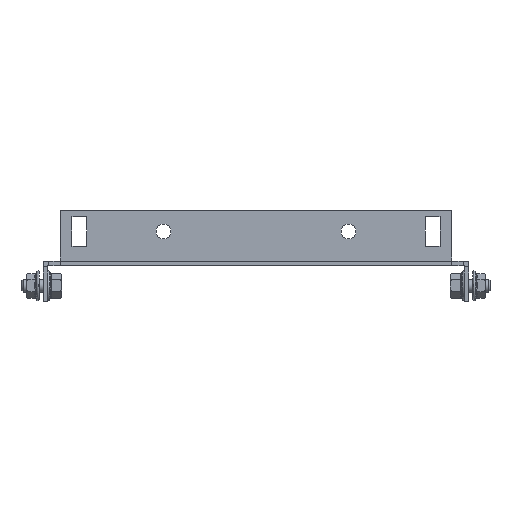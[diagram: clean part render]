
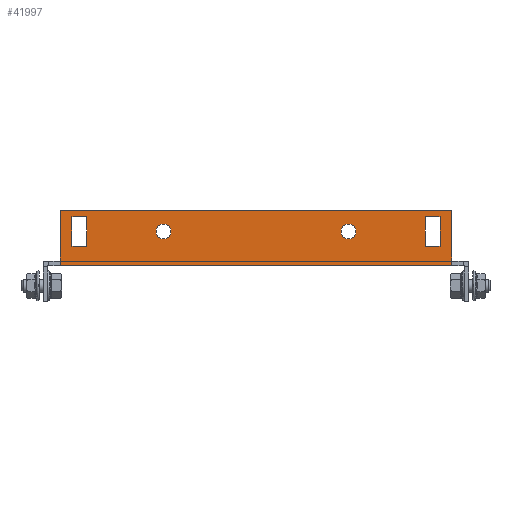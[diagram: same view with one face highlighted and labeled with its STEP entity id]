
A CAD part, front view. The second image highlights one B-rep face of the part: STEP entity #41997.
In plain terms, the highlighted planar face has unit normal (0, -1, 0).
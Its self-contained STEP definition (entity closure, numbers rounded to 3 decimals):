
#38842 = VERTEX_POINT('',#38843);
#38843 = CARTESIAN_POINT('',(92.,-484.5,0.));
#38849 = EDGE_CURVE('',#38850,#38842,#38852,.T.);
#38850 = VERTEX_POINT('',#38851);
#38851 = CARTESIAN_POINT('',(-92.,-484.5,0.));
#38852 = LINE('',#38853,#38854);
#38853 = CARTESIAN_POINT('',(-92.,-484.5,0.));
#38854 = VECTOR('',#38855,1.);
#38855 = DIRECTION('',(1.,-0.,-0.));
#41876 = VERTEX_POINT('',#41877);
#41877 = CARTESIAN_POINT('',(-92.,-484.5,2.6));
#41892 = EDGE_CURVE('',#41876,#38850,#41893,.T.);
#41893 = LINE('',#41894,#41895);
#41894 = CARTESIAN_POINT('',(-92.,-484.5,2.6));
#41895 = VECTOR('',#41896,1.);
#41896 = DIRECTION('',(0.,0.,-1.));
#41916 = VERTEX_POINT('',#41917);
#41917 = CARTESIAN_POINT('',(92.,-484.5,2.6));
#41923 = EDGE_CURVE('',#41916,#38842,#41924,.T.);
#41924 = LINE('',#41925,#41926);
#41925 = CARTESIAN_POINT('',(92.,-484.5,2.));
#41926 = VECTOR('',#41927,1.);
#41927 = DIRECTION('',(-0.,0.,-1.));
#41949 = VERTEX_POINT('',#41950);
#41950 = CARTESIAN_POINT('',(92.,-484.5,26.));
#41956 = EDGE_CURVE('',#41916,#41949,#41957,.T.);
#41957 = LINE('',#41958,#41959);
#41958 = CARTESIAN_POINT('',(92.,-484.5,26.));
#41959 = VECTOR('',#41960,1.);
#41960 = DIRECTION('',(0.,0.,1.));
#41971 = EDGE_CURVE('',#41972,#41876,#41974,.T.);
#41972 = VERTEX_POINT('',#41973);
#41973 = CARTESIAN_POINT('',(-92.,-484.5,26.));
#41974 = LINE('',#41975,#41976);
#41975 = CARTESIAN_POINT('',(-92.,-484.5,2.));
#41976 = VECTOR('',#41977,1.);
#41977 = DIRECTION('',(0.,0.,-1.));
#41997 = ADVANCED_FACE('',(#41998,#42032,#42043,#42054,#42088),#42101,
  .F.);
#41998 = FACE_BOUND('',#41999,.T.);
#41999 = EDGE_LOOP('',(#42000,#42010,#42018,#42026));
#42000 = ORIENTED_EDGE('',*,*,#42001,.F.);
#42001 = EDGE_CURVE('',#42002,#42004,#42006,.T.);
#42002 = VERTEX_POINT('',#42003);
#42003 = CARTESIAN_POINT('',(86.5,-484.5,9.));
#42004 = VERTEX_POINT('',#42005);
#42005 = CARTESIAN_POINT('',(86.5,-484.5,23.));
#42006 = LINE('',#42007,#42008);
#42007 = CARTESIAN_POINT('',(86.5,-484.5,23.));
#42008 = VECTOR('',#42009,1.);
#42009 = DIRECTION('',(-0.,-0.,1.));
#42010 = ORIENTED_EDGE('',*,*,#42011,.F.);
#42011 = EDGE_CURVE('',#42012,#42002,#42014,.T.);
#42012 = VERTEX_POINT('',#42013);
#42013 = CARTESIAN_POINT('',(79.5,-484.5,9.));
#42014 = LINE('',#42015,#42016);
#42015 = CARTESIAN_POINT('',(86.5,-484.5,9.));
#42016 = VECTOR('',#42017,1.);
#42017 = DIRECTION('',(1.,-0.,-0.));
#42018 = ORIENTED_EDGE('',*,*,#42019,.F.);
#42019 = EDGE_CURVE('',#42020,#42012,#42022,.T.);
#42020 = VERTEX_POINT('',#42021);
#42021 = CARTESIAN_POINT('',(79.5,-484.5,23.));
#42022 = LINE('',#42023,#42024);
#42023 = CARTESIAN_POINT('',(79.5,-484.5,9.));
#42024 = VECTOR('',#42025,1.);
#42025 = DIRECTION('',(-0.,-0.,-1.));
#42026 = ORIENTED_EDGE('',*,*,#42027,.F.);
#42027 = EDGE_CURVE('',#42004,#42020,#42028,.T.);
#42028 = LINE('',#42029,#42030);
#42029 = CARTESIAN_POINT('',(79.5,-484.5,23.));
#42030 = VECTOR('',#42031,1.);
#42031 = DIRECTION('',(-1.,-0.,-0.));
#42032 = FACE_BOUND('',#42033,.T.);
#42033 = EDGE_LOOP('',(#42034));
#42034 = ORIENTED_EDGE('',*,*,#42035,.F.);
#42035 = EDGE_CURVE('',#42036,#42036,#42038,.T.);
#42036 = VERTEX_POINT('',#42037);
#42037 = CARTESIAN_POINT('',(43.5,-484.5,19.5));
#42038 = CIRCLE('',#42039,3.5);
#42039 = AXIS2_PLACEMENT_3D('',#42040,#42041,#42042);
#42040 = CARTESIAN_POINT('',(43.5,-484.5,16.));
#42041 = DIRECTION('',(0.,-1.,0.));
#42042 = DIRECTION('',(0.,0.,1.));
#42043 = FACE_BOUND('',#42044,.T.);
#42044 = EDGE_LOOP('',(#42045));
#42045 = ORIENTED_EDGE('',*,*,#42046,.F.);
#42046 = EDGE_CURVE('',#42047,#42047,#42049,.T.);
#42047 = VERTEX_POINT('',#42048);
#42048 = CARTESIAN_POINT('',(-43.5,-484.5,12.5));
#42049 = CIRCLE('',#42050,3.5);
#42050 = AXIS2_PLACEMENT_3D('',#42051,#42052,#42053);
#42051 = CARTESIAN_POINT('',(-43.5,-484.5,16.));
#42052 = DIRECTION('',(0.,-1.,0.));
#42053 = DIRECTION('',(0.,0.,-1.));
#42054 = FACE_BOUND('',#42055,.T.);
#42055 = EDGE_LOOP('',(#42056,#42066,#42074,#42082));
#42056 = ORIENTED_EDGE('',*,*,#42057,.F.);
#42057 = EDGE_CURVE('',#42058,#42060,#42062,.T.);
#42058 = VERTEX_POINT('',#42059);
#42059 = CARTESIAN_POINT('',(-86.5,-484.5,23.));
#42060 = VERTEX_POINT('',#42061);
#42061 = CARTESIAN_POINT('',(-86.5,-484.5,9.));
#42062 = LINE('',#42063,#42064);
#42063 = CARTESIAN_POINT('',(-86.5,-484.5,9.));
#42064 = VECTOR('',#42065,1.);
#42065 = DIRECTION('',(-0.,-0.,-1.));
#42066 = ORIENTED_EDGE('',*,*,#42067,.F.);
#42067 = EDGE_CURVE('',#42068,#42058,#42070,.T.);
#42068 = VERTEX_POINT('',#42069);
#42069 = CARTESIAN_POINT('',(-79.5,-484.5,23.));
#42070 = LINE('',#42071,#42072);
#42071 = CARTESIAN_POINT('',(-86.5,-484.5,23.));
#42072 = VECTOR('',#42073,1.);
#42073 = DIRECTION('',(-1.,-0.,-0.));
#42074 = ORIENTED_EDGE('',*,*,#42075,.F.);
#42075 = EDGE_CURVE('',#42076,#42068,#42078,.T.);
#42076 = VERTEX_POINT('',#42077);
#42077 = CARTESIAN_POINT('',(-79.5,-484.5,9.));
#42078 = LINE('',#42079,#42080);
#42079 = CARTESIAN_POINT('',(-79.5,-484.5,23.));
#42080 = VECTOR('',#42081,1.);
#42081 = DIRECTION('',(-0.,-0.,1.));
#42082 = ORIENTED_EDGE('',*,*,#42083,.F.);
#42083 = EDGE_CURVE('',#42060,#42076,#42084,.T.);
#42084 = LINE('',#42085,#42086);
#42085 = CARTESIAN_POINT('',(-79.5,-484.5,9.));
#42086 = VECTOR('',#42087,1.);
#42087 = DIRECTION('',(1.,-0.,-0.));
#42088 = FACE_BOUND('',#42089,.T.);
#42089 = EDGE_LOOP('',(#42090,#42091,#42092,#42093,#42094,#42095));
#42090 = ORIENTED_EDGE('',*,*,#41971,.T.);
#42091 = ORIENTED_EDGE('',*,*,#41892,.T.);
#42092 = ORIENTED_EDGE('',*,*,#38849,.T.);
#42093 = ORIENTED_EDGE('',*,*,#41923,.F.);
#42094 = ORIENTED_EDGE('',*,*,#41956,.T.);
#42095 = ORIENTED_EDGE('',*,*,#42096,.T.);
#42096 = EDGE_CURVE('',#41949,#41972,#42097,.T.);
#42097 = LINE('',#42098,#42099);
#42098 = CARTESIAN_POINT('',(-92.,-484.5,26.));
#42099 = VECTOR('',#42100,1.);
#42100 = DIRECTION('',(-1.,-0.,-0.));
#42101 = PLANE('',#42102);
#42102 = AXIS2_PLACEMENT_3D('',#42103,#42104,#42105);
#42103 = CARTESIAN_POINT('',(92.,-484.5,2.));
#42104 = DIRECTION('',(-0.,1.,0.));
#42105 = DIRECTION('',(0.,0.,1.));
